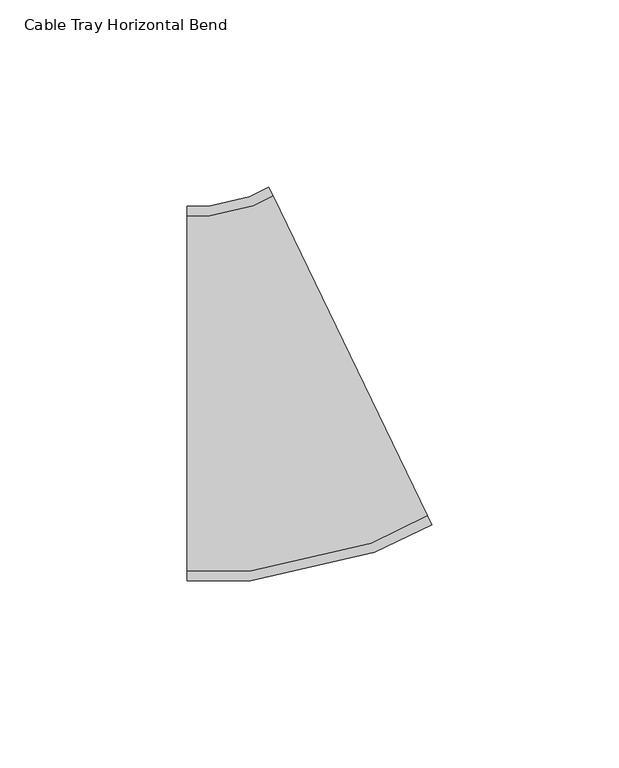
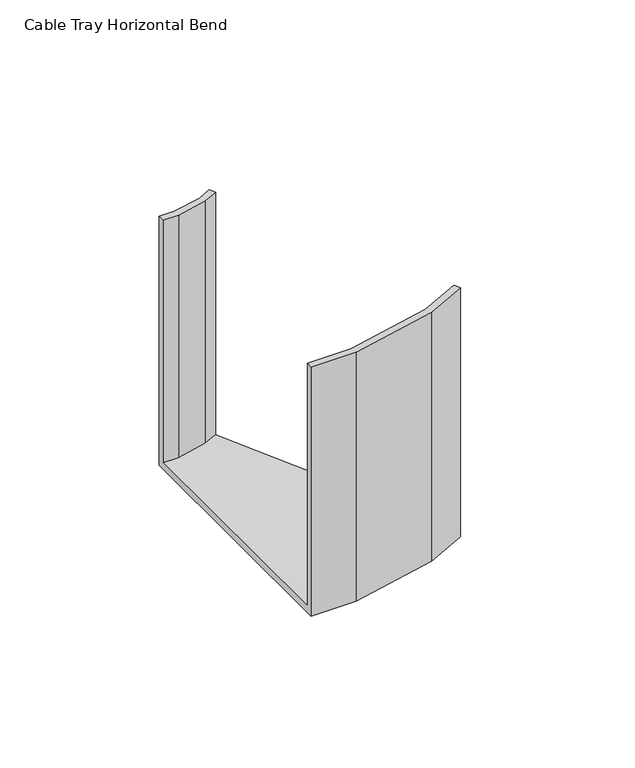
"""IFC4 building model written with IfcOpenShell, lengths in millimetres: cable carrier fitting geometry, Cable Tray Horizontal Bend : ELEC_ELV_TKG_N2402."""

from ifc_helpers import new_model, si_unit, origin, place, context, project, spatial, faceted_brep, source, transform, mapped, element, save


def cable_tray_horizontal_bend_2e1057a2(model_context):
    return source(origin(), model_context, "Body", "Brep", [
        faceted_brep([(-22.9278262, -50.0, -50.0), (-22.9278262, -50.0, 50.0), (-22.9278262, -47.46, 50.0), (-22.9278262, -47.46, -47.46), (-22.9278262, 47.46, -47.46), (-22.9278262, 47.46, 50.0), (-22.9278262, 50.0, 50.0), (-22.9278262, 50.0, -50.0), (42.4203931, -35.0170739, -50.0), (-1.1450864, 54.9943087, -50.0), (-1.1450864, 54.9943087, 50.0), (-0.0385232, 52.7080196, 50.0), (-0.0385232, 52.7080196, -47.46), (41.3138299, -32.7307848, -47.46), (41.3138299, -32.7307848, 50.0), (42.4203931, -35.0170739, 50.0), (-5.9521952, -50.0, -50.0), (-5.9521952, -50.0, 50.0), (27.1403929, -42.4125889, 50.0), (26.2925711, -40.0010691, 50.0), (-6.2396492, -47.46, 50.0), (-6.2396492, -47.46, -47.46), (26.2925711, -40.0010691, -47.46), (-5.390598, 50.1176172, -47.46), (-16.9818285, 47.46, -47.46), (-16.9818285, 47.46, 50.0), (-5.390598, 50.1176172, 50.0), (-6.2384198, 52.529137, 50.0), (-17.2692825, 50.0, 50.0), (-17.2692825, 50.0, -50.0), (-6.2384198, 52.529137, -50.0), (27.1403929, -42.4125889, -50.0)], [[[0, 1, 2, 3, 4, 5, 6, 7]], [[8, 9, 10, 11, 12, 13, 14, 15]], [[1, 0, 16, 17]], [[2, 1, 17, 18, 15, 14, 19, 20]], [[3, 2, 20, 21]], [[4, 3, 21, 22, 13, 12, 23, 24]], [[5, 4, 24, 25]], [[6, 5, 25, 26, 11, 10, 27, 28]], [[7, 6, 28, 29]], [[0, 7, 29, 30, 9, 8, 31, 16]], [[17, 16, 31, 18]], [[21, 20, 19, 22]], [[25, 24, 23, 26]], [[29, 28, 27, 30]], [[18, 31, 8, 15]], [[22, 19, 14, 13]], [[26, 23, 12, 11]], [[30, 27, 10, 9]]]),
    ])


if __name__ == "__main__":
    model = new_model("IFC4")
    model_context = context("Model", 3, world=origin())
    ifc_project = project(units=[si_unit("LENGTHUNIT", "METRE", prefix="MILLI")], contexts=[model_context])
    site = spatial("IfcSite", under=ifc_project)
    building = spatial("IfcBuilding", under=site)
    placement = place(None, origin())
    cable_tray_horizontal_bend_shape = cable_tray_horizontal_bend_2e1057a2(model_context)
    element("IfcCableCarrierFitting", 1, ObjectType="Cable Tray Horizontal Bend : ELEC_ELV_TKG_N2402", at=placement, inside=building, context=model_context, shape_type="MappedRepresentation", body=[
        mapped(cable_tray_horizontal_bend_shape, transform((0.0, 0.0, 0.0), x_axis=(1.0, 0.0, 0.0), y_axis=(0.0, 1.0, 0.0), z_axis=(0.0, 0.0, 1.0))),
    ])
    save(model, "model.ifc")
